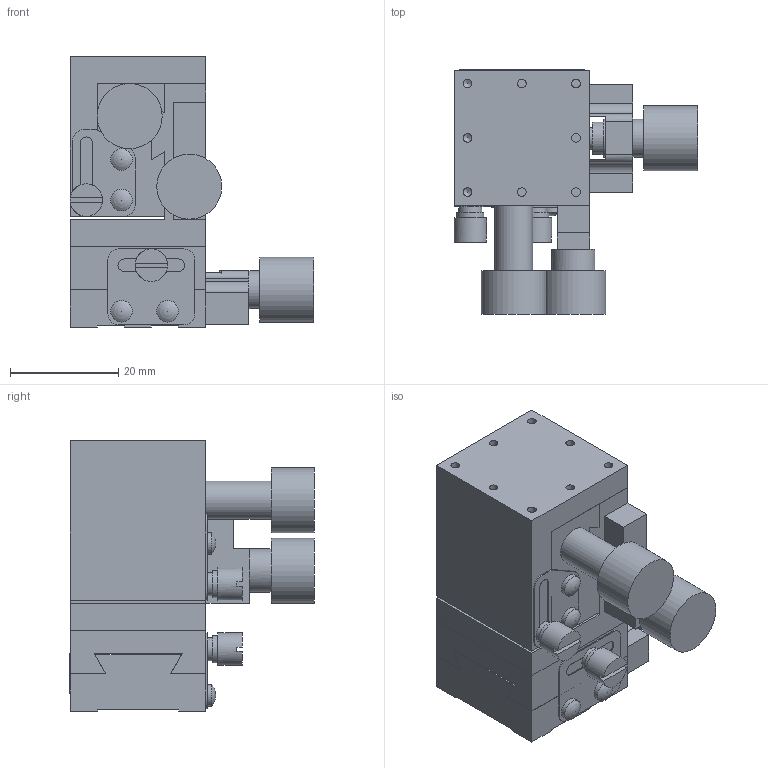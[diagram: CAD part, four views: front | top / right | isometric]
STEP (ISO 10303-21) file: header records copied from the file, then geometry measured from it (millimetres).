
FILE_DESCRIPTION( ( 'STEP AP203' ), '1' );
FILE_NAME( 'C:/3D-Trans/3D_B09-27+090721.step', '2009-07-21T00:41:53', ( ' ' ), ( ' ' ), 'XStep 1.0', ' ', ' ' );
FILE_SCHEMA( ( 'CONFIG_CONTROL_DESIGN' ) );
Length unit declared in the file: millimetre
Products named in the file (5): 1; 2; 3; 4; 5
Bounding box: 45 x 45.15 x 50 mm (x, y, z)
Volume: 34549.6 mm3; surface area: 19947.1 mm2
Topology: 5 solids, 10 shells, 305 faces, 801 edges, 539 vertices
Faces by surface type: plane 182, cylinder 105, cone 14, sphere 4
Full cylindrical faces by diameter (mm): 1.6 x29, 2 x2, 2.2 x2, 2.5 x10, 3 x6, 3.2 x2, 4 x5, 4.2 x8, 4.3 x2, 4.5 x2, 5 x2, 6 x3, 7 x5, 8 x1, 12 x3
Entity records: 9085 total; most frequent: CARTESIAN_POINT 1801, DIRECTION 1469, ORIENTED_EDGE 1276, EDGE_CURVE 638, AXIS2_PLACEMENT_3D 529, VERTEX_POINT 489, EDGE_LOOP 483, LINE 411
